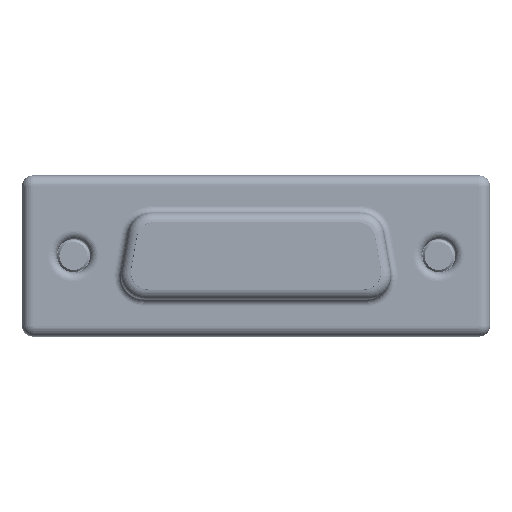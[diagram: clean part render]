
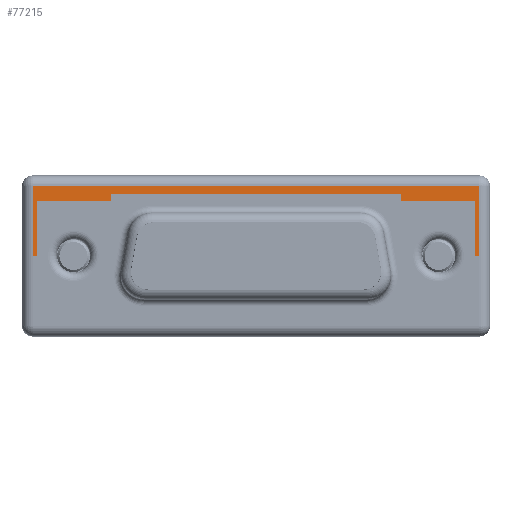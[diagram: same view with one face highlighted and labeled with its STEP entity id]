
A CAD part, front view. The second image highlights one B-rep face of the part: STEP entity #77215.
In plain terms, the highlighted planar face has unit normal (0, -1, 0).
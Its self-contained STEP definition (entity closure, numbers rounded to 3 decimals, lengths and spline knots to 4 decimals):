
#821 = VECTOR ( 'NONE', #154048, 39.3701 ) ;
#5352 = EDGE_CURVE ( 'NONE', #236868, #156785, #34283, .T. ) ;
#8253 = CARTESIAN_POINT ( 'NONE',  ( 0.8406, -4.2717, 0.2894 ) ) ;
#11601 = VECTOR ( 'NONE', #141350, 39.3701 ) ;
#16409 = CARTESIAN_POINT ( 'NONE',  ( 0.8012, -4.2717, 0. ) ) ;
#17914 = DIRECTION ( 'NONE',  ( -1., 0., 0. ) ) ;
#25133 = DIRECTION ( 'NONE',  ( 0., 0., 1. ) ) ;
#26431 = EDGE_CURVE ( 'NONE', #134262, #51066, #184255, .T. ) ;
#27592 = CARTESIAN_POINT ( 'NONE',  ( 0.8012, -4.2717, 0. ) ) ;
#29670 = DIRECTION ( 'NONE',  ( -1., 0., 0. ) ) ;
#30321 = CARTESIAN_POINT ( 'NONE',  ( -0.8012, -4.2717, 0. ) ) ;
#32267 = CARTESIAN_POINT ( 'NONE',  ( -0.5197, -4.2717, 0.1988 ) ) ;
#33993 = CARTESIAN_POINT ( 'NONE',  ( -0.7854, -4.2717, 0.1988 ) ) ;
#34283 = LINE ( 'NONE', #72906, #821 ) ;
#36122 = VERTEX_POINT ( 'NONE', #27592 ) ;
#36285 = VERTEX_POINT ( 'NONE', #82732 ) ;
#37719 = CARTESIAN_POINT ( 'NONE',  ( 0.5197, -4.2717, 0.2224 ) ) ;
#39262 = CARTESIAN_POINT ( 'NONE',  ( -0.5197, -4.2717, 0.2224 ) ) ;
#42035 = ORIENTED_EDGE ( 'NONE', *, *, #240607, .F. ) ;
#42157 = EDGE_LOOP ( 'NONE', ( #152897, #157950, #48003, #96015, #155285, #150710, #83543, #210252, #42035, #176534, #211484, #74290 ) ) ;
#46272 = CARTESIAN_POINT ( 'NONE',  ( -0.7854, -4.2717, 0.1988 ) ) ;
#48003 = ORIENTED_EDGE ( 'NONE', *, *, #96084, .T. ) ;
#51066 = VERTEX_POINT ( 'NONE', #126480 ) ;
#51117 = VERTEX_POINT ( 'NONE', #123646 ) ;
#59609 = CARTESIAN_POINT ( 'NONE',  ( 0.7854, -4.2717, 0. ) ) ;
#64545 = CARTESIAN_POINT ( 'NONE',  ( 0.5197, -4.2717, 0.1988 ) ) ;
#72068 = CARTESIAN_POINT ( 'NONE',  ( 0.8012, -4.2717, 0.25 ) ) ;
#72906 = CARTESIAN_POINT ( 'NONE',  ( -0.7854, -4.2717, 0. ) ) ;
#73715 = EDGE_CURVE ( 'NONE', #36285, #51117, #174269, .T. ) ;
#74290 = ORIENTED_EDGE ( 'NONE', *, *, #26431, .T. ) ;
#76516 = VECTOR ( 'NONE', #100107, 39.3701 ) ;
#77215 = ADVANCED_FACE ( 'NONE', ( #206658 ), #146106, .T. ) ;
#78469 = VECTOR ( 'NONE', #242112, 39.3701 ) ;
#79284 = LINE ( 'NONE', #119244, #165685 ) ;
#80740 = LINE ( 'NONE', #16409, #76516 ) ;
#81317 = VECTOR ( 'NONE', #133079, 39.3701 ) ;
#82167 = DIRECTION ( 'NONE',  ( 0., 0., 1. ) ) ;
#82732 = CARTESIAN_POINT ( 'NONE',  ( 0.5197, -4.2717, 0.2224 ) ) ;
#83543 = ORIENTED_EDGE ( 'NONE', *, *, #157591, .T. ) ;
#84931 = DIRECTION ( 'NONE',  ( 1., 0., 0. ) ) ;
#90513 = VERTEX_POINT ( 'NONE', #59609 ) ;
#95265 = VECTOR ( 'NONE', #84931, 39.3701 ) ;
#96015 = ORIENTED_EDGE ( 'NONE', *, *, #234363, .T. ) ;
#96084 = EDGE_CURVE ( 'NONE', #236868, #219090, #185362, .T. ) ;
#96374 = VECTOR ( 'NONE', #82167, 39.3701 ) ;
#100107 = DIRECTION ( 'NONE',  ( -1., 0., 0. ) ) ;
#101781 = VECTOR ( 'NONE', #17914, 39.3701 ) ;
#103815 = LINE ( 'NONE', #217222, #166537 ) ;
#108156 = VERTEX_POINT ( 'NONE', #32267 ) ;
#108478 = CARTESIAN_POINT ( 'NONE',  ( 0.8012, -4.2717, 0.25 ) ) ;
#112125 = EDGE_CURVE ( 'NONE', #36122, #90513, #80740, .T. ) ;
#115777 = LINE ( 'NONE', #234305, #96374 ) ;
#119244 = CARTESIAN_POINT ( 'NONE',  ( 0.7854, -4.2717, 0. ) ) ;
#123646 = CARTESIAN_POINT ( 'NONE',  ( -0.5197, -4.2717, 0.2224 ) ) ;
#126480 = CARTESIAN_POINT ( 'NONE',  ( -0.8012, -4.2717, 0.25 ) ) ;
#131467 = CARTESIAN_POINT ( 'NONE',  ( 0.7854, -4.2717, 0.1988 ) ) ;
#133079 = DIRECTION ( 'NONE',  ( -1., 0., 0. ) ) ;
#134262 = VERTEX_POINT ( 'NONE', #108478 ) ;
#138836 = EDGE_CURVE ( 'NONE', #51117, #108156, #156523, .T. ) ;
#141350 = DIRECTION ( 'NONE',  ( 0., 0., -1. ) ) ;
#142380 = VECTOR ( 'NONE', #235154, 39.3701 ) ;
#146106 = PLANE ( 'NONE',  #250208 ) ;
#150710 = ORIENTED_EDGE ( 'NONE', *, *, #73715, .F. ) ;
#152897 = ORIENTED_EDGE ( 'NONE', *, *, #219988, .F. ) ;
#154048 = DIRECTION ( 'NONE',  ( -1., 0., 0. ) ) ;
#155285 = ORIENTED_EDGE ( 'NONE', *, *, #138836, .F. ) ;
#155581 = EDGE_CURVE ( 'NONE', #218639, #209033, #239515, .T. ) ;
#156523 = LINE ( 'NONE', #39262, #142380 ) ;
#156785 = VERTEX_POINT ( 'NONE', #30321 ) ;
#157591 = EDGE_CURVE ( 'NONE', #36285, #209033, #165773, .T. ) ;
#157950 = ORIENTED_EDGE ( 'NONE', *, *, #5352, .F. ) ;
#161444 = EDGE_CURVE ( 'NONE', #36122, #134262, #103815, .T. ) ;
#165467 = DIRECTION ( 'NONE',  ( 0., -1., 0. ) ) ;
#165685 = VECTOR ( 'NONE', #25133, 39.3701 ) ;
#165773 = LINE ( 'NONE', #205712, #11601 ) ;
#166537 = VECTOR ( 'NONE', #202951, 39.3701 ) ;
#174269 = LINE ( 'NONE', #37719, #81317 ) ;
#176534 = ORIENTED_EDGE ( 'NONE', *, *, #112125, .F. ) ;
#184255 = LINE ( 'NONE', #72068, #185533 ) ;
#185362 = LINE ( 'NONE', #186622, #78469 ) ;
#185533 = VECTOR ( 'NONE', #29670, 39.3701 ) ;
#186622 = CARTESIAN_POINT ( 'NONE',  ( -0.7854, -4.2717, 0. ) ) ;
#200912 = LINE ( 'NONE', #46272, #95265 ) ;
#202951 = DIRECTION ( 'NONE',  ( 0., 0., 1. ) ) ;
#205712 = CARTESIAN_POINT ( 'NONE',  ( 0.5197, -4.2717, 0.2224 ) ) ;
#206658 = FACE_OUTER_BOUND ( 'NONE', #42157, .T. ) ;
#209033 = VERTEX_POINT ( 'NONE', #64545 ) ;
#210252 = ORIENTED_EDGE ( 'NONE', *, *, #155581, .F. ) ;
#211484 = ORIENTED_EDGE ( 'NONE', *, *, #161444, .T. ) ;
#217222 = CARTESIAN_POINT ( 'NONE',  ( 0.8012, -4.2717, 0. ) ) ;
#217597 = CARTESIAN_POINT ( 'NONE',  ( 0.7854, -4.2717, 0.1988 ) ) ;
#218639 = VERTEX_POINT ( 'NONE', #131467 ) ;
#219090 = VERTEX_POINT ( 'NONE', #33993 ) ;
#219988 = EDGE_CURVE ( 'NONE', #156785, #51066, #115777, .T. ) ;
#221463 = CARTESIAN_POINT ( 'NONE',  ( -0.7854, -4.2717, 0. ) ) ;
#234305 = CARTESIAN_POINT ( 'NONE',  ( -0.8012, -4.2717, 0. ) ) ;
#234363 = EDGE_CURVE ( 'NONE', #219090, #108156, #200912, .T. ) ;
#235154 = DIRECTION ( 'NONE',  ( 0., 0., -1. ) ) ;
#236868 = VERTEX_POINT ( 'NONE', #221463 ) ;
#239515 = LINE ( 'NONE', #217597, #101781 ) ;
#240607 = EDGE_CURVE ( 'NONE', #90513, #218639, #79284, .T. ) ;
#242112 = DIRECTION ( 'NONE',  ( 0., 0., 1. ) ) ;
#244095 = DIRECTION ( 'NONE',  ( 1., 0., 0. ) ) ;
#250208 = AXIS2_PLACEMENT_3D ( 'NONE', #8253, #165467, #244095 ) ;
